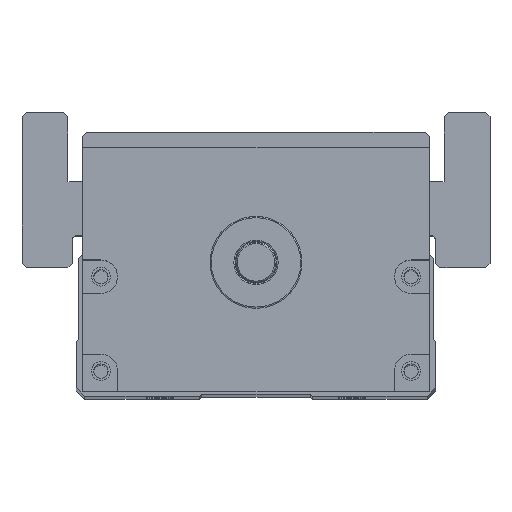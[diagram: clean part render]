
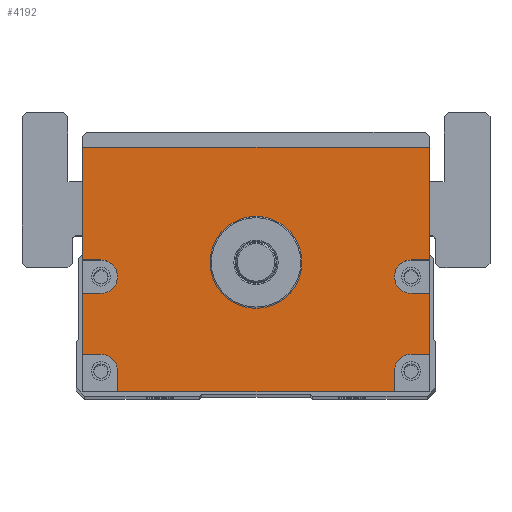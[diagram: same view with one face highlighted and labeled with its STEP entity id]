
A CAD part, top view. The second image highlights one B-rep face of the part: STEP entity #4192.
In plain terms, the highlighted planar face has unit normal (0, 0, 1).
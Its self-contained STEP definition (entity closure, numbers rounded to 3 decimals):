
#3566=FACE_BOUND('',#5767,.T.);
#3567=FACE_BOUND('',#5768,.T.);
#4192=ADVANCED_FACE('',(#3566,#3567),#4677,.T.);
#4677=PLANE('',#14345);
#5767=EDGE_LOOP('',(#9426,#9427,#9428,#9429,#9430,#9431,#9432,#9433,#9434,
#9435,#9436,#9437,#9438,#9439,#9440,#9441,#9442,#9443));
#5768=EDGE_LOOP('',(#9444));
#6629=LINE('',#20740,#7384);
#6631=LINE('',#20748,#7386);
#6632=LINE('',#20751,#7387);
#6633=LINE('',#20753,#7388);
#6634=LINE('',#20757,#7389);
#6635=LINE('',#20759,#7390);
#6636=LINE('',#20760,#7391);
#6637=LINE('',#20762,#7392);
#6638=LINE('',#20766,#7393);
#6639=LINE('',#20768,#7394);
#6640=LINE('',#20770,#7395);
#6641=LINE('',#20774,#7396);
#6642=LINE('',#20776,#7397);
#6643=LINE('',#20778,#7398);
#7384=VECTOR('',#16466,1.);
#7386=VECTOR('',#16474,1.);
#7387=VECTOR('',#16475,1.);
#7388=VECTOR('',#16476,1.);
#7389=VECTOR('',#16479,1.);
#7390=VECTOR('',#16480,1.);
#7391=VECTOR('',#16481,1.);
#7392=VECTOR('',#16482,1.);
#7393=VECTOR('',#16485,1.);
#7394=VECTOR('',#16486,1.);
#7395=VECTOR('',#16487,1.);
#7396=VECTOR('',#16490,1.);
#7397=VECTOR('',#16491,1.);
#7398=VECTOR('',#16492,1.);
#9426=ORIENTED_EDGE('',*,*,#12655,.F.);
#9427=ORIENTED_EDGE('',*,*,#12656,.T.);
#9428=ORIENTED_EDGE('',*,*,#12657,.F.);
#9429=ORIENTED_EDGE('',*,*,#12658,.F.);
#9430=ORIENTED_EDGE('',*,*,#12659,.F.);
#9431=ORIENTED_EDGE('',*,*,#12660,.T.);
#9432=ORIENTED_EDGE('',*,*,#12651,.T.);
#9433=ORIENTED_EDGE('',*,*,#12661,.T.);
#9434=ORIENTED_EDGE('',*,*,#12662,.F.);
#9435=ORIENTED_EDGE('',*,*,#12663,.F.);
#9436=ORIENTED_EDGE('',*,*,#12664,.F.);
#9437=ORIENTED_EDGE('',*,*,#12665,.T.);
#9438=ORIENTED_EDGE('',*,*,#12666,.F.);
#9439=ORIENTED_EDGE('',*,*,#12667,.F.);
#9440=ORIENTED_EDGE('',*,*,#12668,.F.);
#9441=ORIENTED_EDGE('',*,*,#12669,.T.);
#9442=ORIENTED_EDGE('',*,*,#12670,.F.);
#9443=ORIENTED_EDGE('',*,*,#12671,.F.);
#9444=ORIENTED_EDGE('',*,*,#12637,.T.);
#11310=VERTEX_POINT('',#20711);
#11323=VERTEX_POINT('',#20739);
#11324=VERTEX_POINT('',#20741);
#11327=VERTEX_POINT('',#20749);
#11328=VERTEX_POINT('',#20750);
#11329=VERTEX_POINT('',#20752);
#11330=VERTEX_POINT('',#20754);
#11331=VERTEX_POINT('',#20756);
#11332=VERTEX_POINT('',#20758);
#11333=VERTEX_POINT('',#20761);
#11334=VERTEX_POINT('',#20763);
#11335=VERTEX_POINT('',#20765);
#11336=VERTEX_POINT('',#20767);
#11337=VERTEX_POINT('',#20769);
#11338=VERTEX_POINT('',#20771);
#11339=VERTEX_POINT('',#20773);
#11340=VERTEX_POINT('',#20775);
#11341=VERTEX_POINT('',#20777);
#11342=VERTEX_POINT('',#20779);
#12637=EDGE_CURVE('',#11310,#11310,#13526,.T.);
#12651=EDGE_CURVE('',#11324,#11323,#6629,.T.);
#12655=EDGE_CURVE('',#11327,#11328,#6631,.T.);
#12656=EDGE_CURVE('',#11327,#11329,#6632,.T.);
#12657=EDGE_CURVE('',#11330,#11329,#6633,.T.);
#12658=EDGE_CURVE('',#11331,#11330,#13537,.T.);
#12659=EDGE_CURVE('',#11332,#11331,#6634,.T.);
#12660=EDGE_CURVE('',#11332,#11324,#6635,.T.);
#12661=EDGE_CURVE('',#11323,#11333,#6636,.T.);
#12662=EDGE_CURVE('',#11334,#11333,#6637,.T.);
#12663=EDGE_CURVE('',#11335,#11334,#13538,.T.);
#12664=EDGE_CURVE('',#11336,#11335,#6638,.T.);
#12665=EDGE_CURVE('',#11336,#11337,#6639,.T.);
#12666=EDGE_CURVE('',#11338,#11337,#6640,.T.);
#12667=EDGE_CURVE('',#11339,#11338,#13539,.T.);
#12668=EDGE_CURVE('',#11340,#11339,#6641,.T.);
#12669=EDGE_CURVE('',#11340,#11341,#6642,.T.);
#12670=EDGE_CURVE('',#11342,#11341,#6643,.T.);
#12671=EDGE_CURVE('',#11328,#11342,#13540,.T.);
#13526=CIRCLE('',#14327,11.);
#13537=CIRCLE('',#14341,4.);
#13538=CIRCLE('',#14342,4.);
#13539=CIRCLE('',#14343,4.);
#13540=CIRCLE('',#14344,4.);
#14327=AXIS2_PLACEMENT_3D('',#20710,#16439,#16440);
#14341=AXIS2_PLACEMENT_3D('',#20755,#16477,#16478);
#14342=AXIS2_PLACEMENT_3D('',#20764,#16483,#16484);
#14343=AXIS2_PLACEMENT_3D('',#20772,#16488,#16489);
#14344=AXIS2_PLACEMENT_3D('',#20780,#16493,#16494);
#14345=AXIS2_PLACEMENT_3D('',#20781,#16495,#16496);
#16439=DIRECTION('',(0.,0.,-1.));
#16440=DIRECTION('',(1.,0.,0.));
#16466=DIRECTION('',(-1.,0.,0.));
#16474=DIRECTION('',(-1.,0.,0.));
#16475=DIRECTION('',(0.,1.,0.));
#16476=DIRECTION('',(1.,0.,0.));
#16477=DIRECTION('',(0.,0.,1.));
#16478=DIRECTION('',(1.,0.,0.));
#16479=DIRECTION('',(-1.,0.,0.));
#16480=DIRECTION('',(0.,1.,0.));
#16481=DIRECTION('',(0.,-1.,0.));
#16482=DIRECTION('',(-1.,0.,0.));
#16483=DIRECTION('',(0.,0.,1.));
#16484=DIRECTION('',(1.,0.,0.));
#16485=DIRECTION('',(1.,0.,0.));
#16486=DIRECTION('',(0.,-1.,0.));
#16487=DIRECTION('',(-1.,0.,0.));
#16488=DIRECTION('',(0.,0.,1.));
#16489=DIRECTION('',(1.,0.,0.));
#16490=DIRECTION('',(0.,1.,0.));
#16491=DIRECTION('',(1.,0.,0.));
#16492=DIRECTION('',(0.,-1.,0.));
#16493=DIRECTION('',(0.,0.,1.));
#16494=DIRECTION('',(1.,0.,0.));
#16495=DIRECTION('',(0.,0.,1.));
#16496=DIRECTION('',(1.,0.,0.));
#20710=CARTESIAN_POINT('',(600.,0.,282.5));
#20711=CARTESIAN_POINT('',(611.,0.,282.5));
#20739=CARTESIAN_POINT('',(558.5,27.5,282.5));
#20740=CARTESIAN_POINT('',(641.5,27.5,282.5));
#20741=CARTESIAN_POINT('',(641.5,27.5,282.5));
#20748=CARTESIAN_POINT('',(641.5,-22.,282.5));
#20749=CARTESIAN_POINT('',(641.5,-22.,282.5));
#20750=CARTESIAN_POINT('',(637.115,-22.,282.5));
#20751=CARTESIAN_POINT('',(641.5,-31.,282.5));
#20752=CARTESIAN_POINT('',(641.5,-7.431,282.5));
#20753=CARTESIAN_POINT('',(641.5,-7.431,282.5));
#20754=CARTESIAN_POINT('',(637.115,-7.431,282.5));
#20755=CARTESIAN_POINT('',(637.115,-3.431,282.5));
#20756=CARTESIAN_POINT('',(637.115,0.569,282.5));
#20757=CARTESIAN_POINT('',(641.5,0.569,282.5));
#20758=CARTESIAN_POINT('',(641.5,0.569,282.5));
#20759=CARTESIAN_POINT('',(641.5,-31.,282.5));
#20760=CARTESIAN_POINT('',(558.5,27.5,282.5));
#20761=CARTESIAN_POINT('',(558.5,0.569,282.5));
#20762=CARTESIAN_POINT('',(641.5,0.569,282.5));
#20763=CARTESIAN_POINT('',(562.885,0.569,282.5));
#20764=CARTESIAN_POINT('',(562.885,-3.431,282.5));
#20765=CARTESIAN_POINT('',(562.885,-7.431,282.5));
#20766=CARTESIAN_POINT('',(641.5,-7.431,282.5));
#20767=CARTESIAN_POINT('',(558.5,-7.431,282.5));
#20768=CARTESIAN_POINT('',(558.5,27.5,282.5));
#20769=CARTESIAN_POINT('',(558.5,-22.,282.5));
#20770=CARTESIAN_POINT('',(641.5,-22.,282.5));
#20771=CARTESIAN_POINT('',(562.885,-22.,282.5));
#20772=CARTESIAN_POINT('',(562.885,-26.,282.5));
#20773=CARTESIAN_POINT('',(566.885,-26.,282.5));
#20774=CARTESIAN_POINT('',(566.885,-31.,282.5));
#20775=CARTESIAN_POINT('',(566.885,-31.,282.5));
#20776=CARTESIAN_POINT('',(558.5,-31.,282.5));
#20777=CARTESIAN_POINT('',(633.115,-31.,282.5));
#20778=CARTESIAN_POINT('',(633.115,-31.,282.5));
#20779=CARTESIAN_POINT('',(633.115,-26.,282.5));
#20780=CARTESIAN_POINT('',(637.115,-26.,282.5));
#20781=CARTESIAN_POINT('',(641.5,-31.,282.5));
